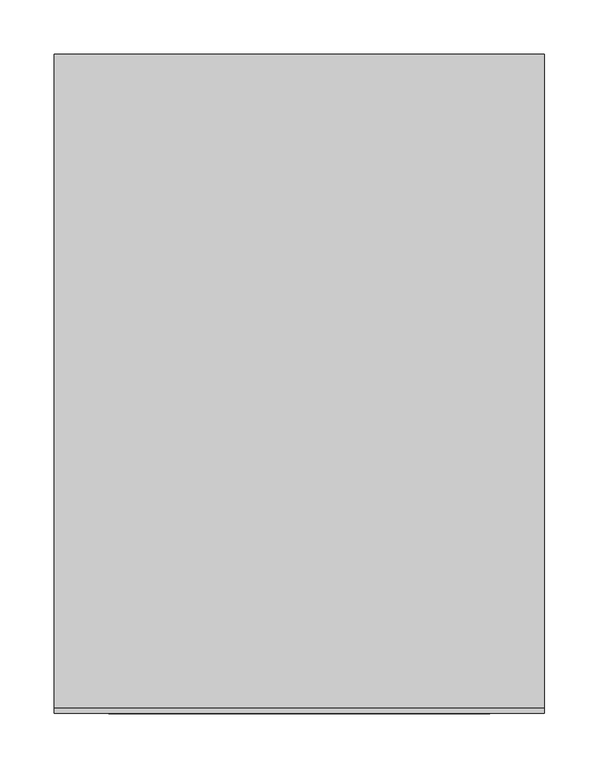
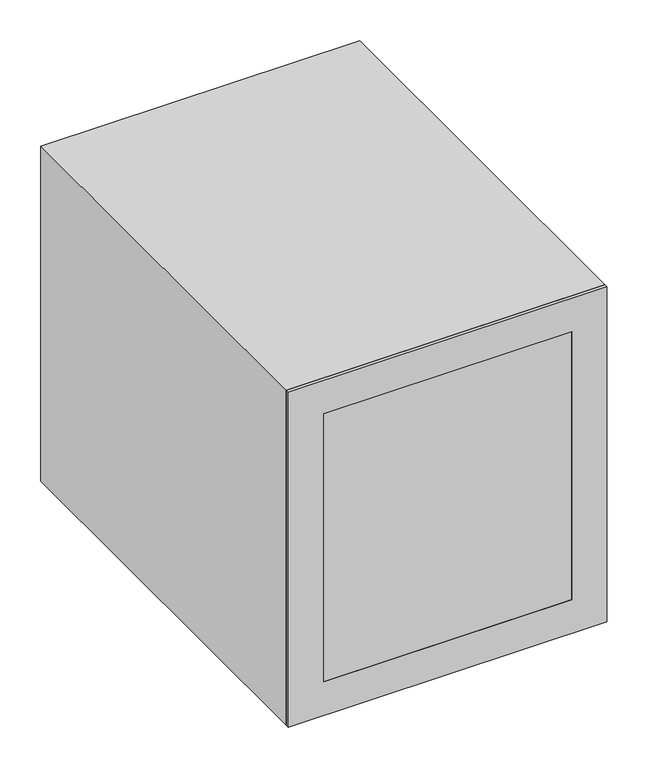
"""IFC4 building model written with IfcOpenShell, lengths in millimetres: proxy geometry, ZYR_08.01.01 RACK (Armari Petit) : RACK P0A (EXISTENT)."""

import ifcopenshell
import ifcopenshell.guid

model = None  # the IFC model being written
_history = None  # IfcOwnerHistory: only IFC2X3 demands one
_inside = {}  # id of a spatial element -> (the spatial element, [elements in it])
_under = {}  # id of a project, library or spatial element -> (it, [spatial elements below it])
_declared = {}  # id of a project -> (the project, [libraries it declares])
_typed = {}  # id of a type object -> (the type object, [elements of that type])
_made_of = {}  # id of a material, layer set ... -> (it, [elements and type objects made of it])


def new_model(schema):
    """Start an empty IFC model of exactly this schema.

    Asked for "IFC4X3", IfcOpenShell would pick the latest addendum, in which some entities
    have other attributes; the version numbers below select the first issue.
    IFC2X3 requires an IfcOwnerHistory on every rooted entity: one is made here for all.
    """
    global model, _history
    if schema == "IFC4X3":
        model = ifcopenshell.file(schema_version=(4, 3, 0, 0))
    else:
        model = ifcopenshell.file(schema=schema)
    _inside.clear()
    _under.clear()
    _declared.clear()
    _typed.clear()
    _made_of.clear()
    _history = None
    if model.schema == "IFC2X3":
        org = make("IfcOrganization", Name="unknown")
        user = make(
            "IfcPersonAndOrganization",
            ThePerson=make("IfcPerson", FamilyName="unknown"),
            TheOrganization=org,
        )
        app = make(
            "IfcApplication",
            ApplicationDeveloper=org,
            Version="unknown",
            ApplicationFullName="unknown",
            ApplicationIdentifier="unknown",
        )
        _history = make(
            "IfcOwnerHistory",
            OwningUser=user,
            OwningApplication=app,
            ChangeAction="ADDED",
            CreationDate=0,
        )
    return model


def make(cls, **values):
    """One entity of the class cls with the attributes given. An attribute that is None is left unset."""
    return model.create_entity(
        cls, **{name: value for name, value in values.items() if value is not None}
    )


def rooted(cls, **values):
    """An entity with a GlobalId (a new one), such as an element, a storey or a relation."""
    return make(cls, GlobalId=ifcopenshell.guid.new(), OwnerHistory=_history, **values)


def si_unit(unit_type, name, prefix=None):
    """IfcSIUnit, for example si_unit("LENGTHUNIT", "METRE", prefix="MILLI")."""
    return make("IfcSIUnit", UnitType=unit_type, Prefix=prefix, Name=name)


def assignment(units):
    """IfcUnitAssignment: the units of a project."""
    return None if units is None else make("IfcUnitAssignment", Units=units)


def point(xyz):
    """IfcCartesianPoint."""
    return None if xyz is None else make("IfcCartesianPoint", Coordinates=xyz)


def direction(xyz):
    """IfcDirection."""
    return None if xyz is None else make("IfcDirection", DirectionRatios=xyz)


def frame(location, z_axis=None, x_axis=None):
    """IfcAxis2Placement3D, a coordinate frame: its origin and axes. An axis left out is left unset."""
    return make(
        "IfcAxis2Placement3D",
        Location=point(location),
        Axis=direction(z_axis),
        RefDirection=direction(x_axis),
    )


def origin():
    """The frame at (0, 0, 0) with its axes left unset."""
    return frame((0.0, 0.0, 0.0))


def place(relative_to, where):
    """IfcLocalPlacement: puts the frame where relative to a parent placement (None: the world)."""
    return make(
        "IfcLocalPlacement", PlacementRelTo=relative_to, RelativePlacement=where
    )


def context(
    kind, dimensions, precision=None, world=None, true_north=None, identifier=None
):
    """IfcGeometricRepresentationContext, for example the 3D "Model" context."""
    return make(
        "IfcGeometricRepresentationContext",
        ContextIdentifier=identifier,
        ContextType=kind,
        CoordinateSpaceDimension=dimensions,
        Precision=precision,
        WorldCoordinateSystem=world,
        TrueNorth=true_north,
    )


def project(units=None, contexts=None):
    """IfcProject with its units and contexts."""
    return rooted(
        "IfcProject",
        Name="project",
        RepresentationContexts=contexts,
        UnitsInContext=assignment(units),
    )


def spatial(cls, under=None, at=None, **own):
    """A site, building, storey or space (cls), placed at a placement, below another one or the project."""
    s = rooted(cls, ObjectPlacement=at, **own)
    if under is not None:
        _under.setdefault(under.id(), (under, []))[1].append(s)
    return s


def polyline(points):
    """IfcPolyline through the points."""
    return make("IfcPolyline", Points=[point(p) for p in points])


def outline(outer, holes=None, kind="AREA"):
    """IfcArbitraryClosedProfileDef: a profile drawn as a closed curve; with holes, ...WithVoids."""
    if holes is None:
        return make("IfcArbitraryClosedProfileDef", ProfileType=kind, OuterCurve=outer)
    return make(
        "IfcArbitraryProfileDefWithVoids",
        ProfileType=kind,
        OuterCurve=outer,
        InnerCurves=holes,
    )


def extrude(swept, where, along, depth):
    """IfcExtrudedAreaSolid: the profile swept, set in the frame where, extruded along a direction by depth."""
    return make(
        "IfcExtrudedAreaSolid",
        SweptArea=swept,
        Position=where,
        ExtrudedDirection=direction(along),
        Depth=depth,
    )


def shape(context_of_items, identifier, shape_type, items):
    """IfcShapeRepresentation: the items that make up one representation, for example the "Body"."""
    return make(
        "IfcShapeRepresentation",
        ContextOfItems=context_of_items,
        RepresentationIdentifier=identifier,
        RepresentationType=shape_type,
        Items=items,
    )


def source(mapping_origin, context_of_items, identifier, shape_type, items):
    """IfcRepresentationMap: a shape defined once, which mapped items show again and again."""
    return make(
        "IfcRepresentationMap",
        MappingOrigin=mapping_origin,
        MappedRepresentation=shape(context_of_items, identifier, shape_type, items),
    )


def transform(
    local_origin,
    x_axis=None,
    y_axis=None,
    z_axis=None,
    scale=None,
    scale2=None,
    scale3=None,
    uniform=True,
):
    """IfcCartesianTransformationOperator3D, or its non-uniform kind. x_axis, y_axis, z_axis: its Axis1, 2, 3."""
    if uniform:
        return make(
            "IfcCartesianTransformationOperator3D",
            Axis1=direction(x_axis),
            Axis2=direction(y_axis),
            LocalOrigin=point(local_origin),
            Scale=scale,
            Axis3=direction(z_axis),
        )
    return make(
        "IfcCartesianTransformationOperator3DnonUniform",
        Axis1=direction(x_axis),
        Axis2=direction(y_axis),
        LocalOrigin=point(local_origin),
        Scale=scale,
        Axis3=direction(z_axis),
        Scale2=scale2,
        Scale3=scale3,
    )


def mapped(mapping_source, mapping_target):
    """IfcMappedItem: shows the shape of a source again, moved by a transform."""
    return make(
        "IfcMappedItem", MappingSource=mapping_source, MappingTarget=mapping_target
    )


def made_of(thing, what):
    """Note that an element or type object is made of a material, layer set ...; save() writes the relation."""
    if what is not None:
        _made_of.setdefault(what.id(), (what, []))[1].append(thing)
    return thing


def element(
    cls,
    number,
    at=None,
    inside=None,
    cuts=None,
    type_object=None,
    material=None,
    context=None,
    identifier="Body",
    shape_type=None,
    held_by="IfcProductDefinitionShape",
    body=None,
    shapes=None,
    **own,
):
    """One element of the class cls, such as IfcWall. Its Tag is "e" and its number.

    at: its placement. inside: the storey or other place that contains it. cuts: it is an
    opening in that element (IfcRelVoidsElement). A single representation is given by context,
    identifier, shape_type and body (its items); several are given by shapes. held_by: the class
    of the entity that holds the representations. save() writes the other relations.
    """
    e = rooted(cls, Tag="e%d" % number, ObjectPlacement=at, **own)
    if body is not None:
        shapes = [shape(context, identifier, shape_type, body)]
    if shapes is not None:
        e.Representation = make(held_by, Representations=shapes)
    if inside is not None:
        _inside.setdefault(inside.id(), (inside, []))[1].append(e)
    if cuts is not None:
        rooted(
            "IfcRelVoidsElement", RelatingBuildingElement=cuts, RelatedOpeningElement=e
        )
    if type_object is not None:
        _typed.setdefault(type_object.id(), (type_object, []))[1].append(e)
    return made_of(e, material)


def aggregate(whole, parts):
    """IfcRelAggregates: a whole, such as a stair, and the parts it consists of."""
    return rooted("IfcRelAggregates", RelatingObject=whole, RelatedObjects=parts)


def save(model, path):
    """Write the relations noted so far, then the file.

    IfcRelAggregates (storeys below a building ...), IfcRelContainedInSpatialStructure (elements
    in a storey), IfcRelDefinesByType, IfcRelAssociatesMaterial and IfcRelDeclares: one each for
    every whole, place, type object, material and project.
    """
    for whole, parts in _under.values():
        aggregate(whole, parts)
    for where, things in _inside.values():
        rooted(
            "IfcRelContainedInSpatialStructure",
            RelatedElements=things,
            RelatingStructure=where,
        )
    for kind, things in _typed.values():
        rooted("IfcRelDefinesByType", RelatedObjects=things, RelatingType=kind)
    for what, things in _made_of.values():
        rooted("IfcRelAssociatesMaterial", RelatedObjects=things, RelatingMaterial=what)
    for by, libraries in _declared.values():
        rooted("IfcRelDeclares", RelatingContext=by, RelatedDefinitions=libraries)
    model.write(path)


def electrical_equipment_f19ecba1(model_context):
    return source(origin(), model_context, "Body", "SweptSolid", [
        extrude(outline(polyline([(225.0, -600.0), (-225.0, -600.0), (-225.0, 0.0), (225.0, 0.0), (225.0, -600.0)])), frame((0.0, 0.0, -250.0), z_axis=(0.0, 0.0, 1.0), x_axis=(1.0, 0.0, 0.0)), (0.0, 0.0, 1.0), 500.0),
        extrude(outline(polyline([(250.0, 225.0), (250.0, -225.0), (-250.0, -225.0), (-250.0, 225.0), (250.0, 225.0)]), holes=[polyline([(-200.0, -175.0), (200.0, -175.0), (200.0, 175.0), (-200.0, 175.0), (-200.0, -175.0)])]), frame((0.0, -605.0, 0.0), z_axis=(0.0, 1.0, 0.0), x_axis=(0.0, 0.0, 1.0)), (0.0, 0.0, 1.0), 5.0),
        extrude(outline(polyline([(175.0, -605.0), (-175.0, -605.0), (-175.0, -600.0), (175.0, -600.0), (175.0, -605.0)])), frame((0.0, 0.0, -200.0), z_axis=(0.0, 0.0, 1.0), x_axis=(1.0, 0.0, 0.0)), (0.0, 0.0, 1.0), 400.0),
    ])


if __name__ == "__main__":
    model = new_model("IFC4")
    model_context = context("Model", 3, world=origin())
    ifc_project = project(units=[si_unit("LENGTHUNIT", "METRE", prefix="MILLI")], contexts=[model_context])
    site = spatial("IfcSite", under=ifc_project)
    building = spatial("IfcBuilding", under=site)
    placement = place(None, origin())
    electrical_equipment_shape = electrical_equipment_f19ecba1(model_context)
    element("IfcBuildingElementProxy", 1, Name="ZYR_08.01.01 RACK (Armari Petit) : RACK P0A (EXISTENT)", ObjectType="ZYR_08.01.01 RACK (Armari Petit) : RACK P0A (EXISTENT)", at=placement, inside=building, context=model_context, shape_type="MappedRepresentation", body=[
        mapped(electrical_equipment_shape, transform((0.0, 0.0, 0.0), x_axis=(1.0, 0.0, 0.0), y_axis=(0.0, 1.0, 0.0), z_axis=(0.0, 0.0, 1.0))),
    ])
    save(model, "model.ifc")
